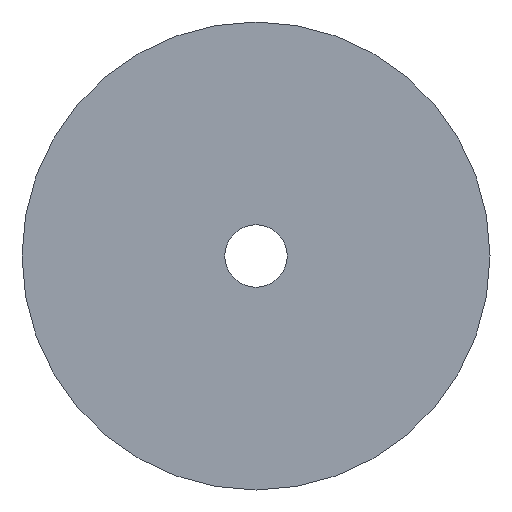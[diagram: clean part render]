
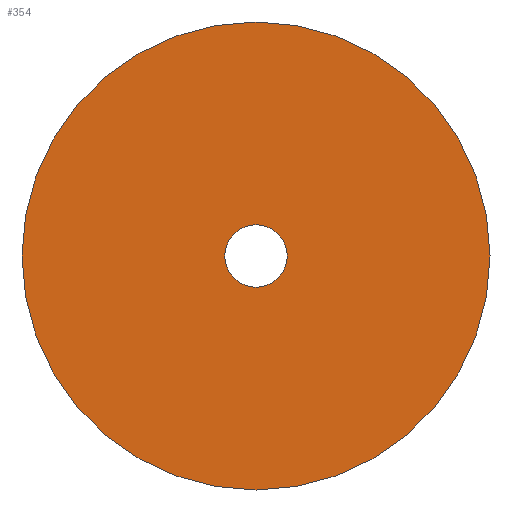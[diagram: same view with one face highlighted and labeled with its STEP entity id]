
A CAD part, front view. The second image highlights one B-rep face of the part: STEP entity #354.
In plain terms, the highlighted planar face has unit normal (0, -1, 0).
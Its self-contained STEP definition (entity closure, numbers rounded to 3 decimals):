
#4 = ORIENTED_EDGE ( 'NONE', *, *, #372, .T. ) ;
#5 = EDGE_CURVE ( 'NONE', #19, #30, #90, .T. ) ;
#16 = ORIENTED_EDGE ( 'NONE', *, *, #5, .T. ) ;
#19 = VERTEX_POINT ( 'NONE', #164 ) ;
#20 = VERTEX_POINT ( 'NONE', #170 ) ;
#30 = VERTEX_POINT ( 'NONE', #191 ) ;
#31 = ORIENTED_EDGE ( 'NONE', *, *, #46, .F. ) ;
#37 = ORIENTED_EDGE ( 'NONE', *, *, #49, .F. ) ;
#46 = EDGE_CURVE ( 'NONE', #175, #20, #229, .T. ) ;
#49 = EDGE_CURVE ( 'NONE', #20, #175, #252, .T. ) ;
#71 = EDGE_LOOP ( 'NONE', ( #37, #31 ) ) ;
#90 = CIRCLE ( 'NONE', #91, 2. ) ;
#91 = AXIS2_PLACEMENT_3D ( 'NONE', #92, #93, #94 ) ;
#92 = CARTESIAN_POINT ( 'NONE',  ( 0., 0., 0. ) ) ;
#93 = DIRECTION ( 'NONE',  ( 0., 1., 0. ) ) ;
#94 = DIRECTION ( 'NONE',  ( 0., 0., 1. ) ) ;
#95 = CIRCLE ( 'NONE', #96, 2. ) ;
#96 = AXIS2_PLACEMENT_3D ( 'NONE', #97, #98, #99 ) ;
#97 = CARTESIAN_POINT ( 'NONE',  ( 0., 0., 0. ) ) ;
#98 = DIRECTION ( 'NONE',  ( 0., 1., 0. ) ) ;
#99 = DIRECTION ( 'NONE',  ( 0., 0., 1. ) ) ;
#126 = CARTESIAN_POINT ( 'NONE',  ( 0., 0., 15. ) ) ;
#164 = CARTESIAN_POINT ( 'NONE',  ( 0., 0., -2. ) ) ;
#170 = CARTESIAN_POINT ( 'NONE',  ( 0., 0., -15. ) ) ;
#175 = VERTEX_POINT ( 'NONE', #126 ) ;
#191 = CARTESIAN_POINT ( 'NONE',  ( 0., 0., 2. ) ) ;
#199 = FACE_BOUND ( 'NONE', #363, .T. ) ;
#200 = FACE_OUTER_BOUND ( 'NONE', #71, .T. ) ;
#201 = PLANE ( 'NONE',  #202 ) ;
#202 = AXIS2_PLACEMENT_3D ( 'NONE', #203, #204, #205 ) ;
#203 = CARTESIAN_POINT ( 'NONE',  ( -15., 0., 0. ) ) ;
#204 = DIRECTION ( 'NONE',  ( 0., -1., 0. ) ) ;
#205 = DIRECTION ( 'NONE',  ( 0., 0., -1. ) ) ;
#229 = CIRCLE ( 'NONE', #230, 15. ) ;
#230 = AXIS2_PLACEMENT_3D ( 'NONE', #231, #232, #233 ) ;
#231 = CARTESIAN_POINT ( 'NONE',  ( 0., 0., 0. ) ) ;
#232 = DIRECTION ( 'NONE',  ( 0., 1., 0. ) ) ;
#233 = DIRECTION ( 'NONE',  ( 0., 0., 1. ) ) ;
#252 = CIRCLE ( 'NONE', #253, 15. ) ;
#253 = AXIS2_PLACEMENT_3D ( 'NONE', #254, #255, #256 ) ;
#254 = CARTESIAN_POINT ( 'NONE',  ( 0., 0., 0. ) ) ;
#255 = DIRECTION ( 'NONE',  ( 0., 1., 0. ) ) ;
#256 = DIRECTION ( 'NONE',  ( 0., 0., 1. ) ) ;
#354 = ADVANCED_FACE ( 'NONE', ( #199, #200 ), #201, .T. ) ;
#363 = EDGE_LOOP ( 'NONE', ( #4, #16 ) ) ;
#372 = EDGE_CURVE ( 'NONE', #30, #19, #95, .T. ) ;
